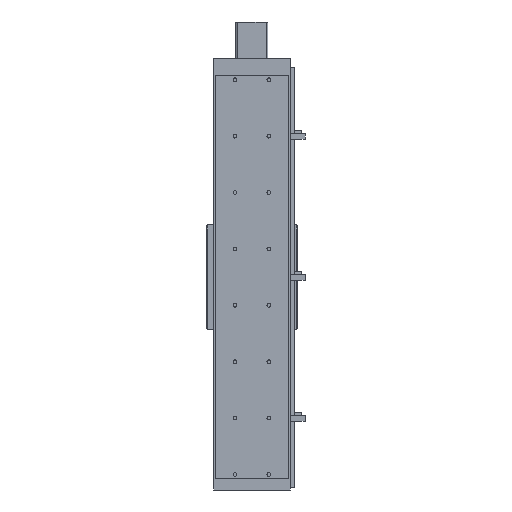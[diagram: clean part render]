
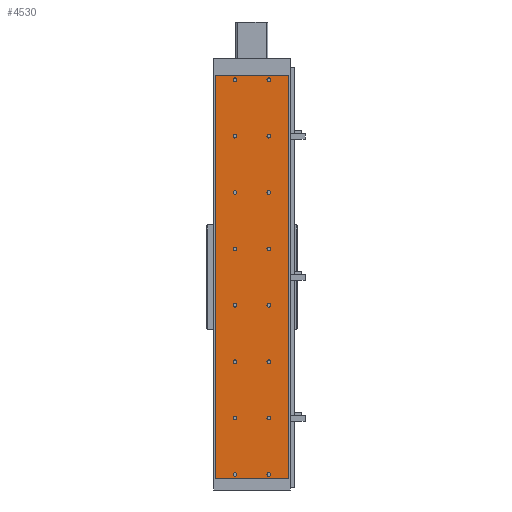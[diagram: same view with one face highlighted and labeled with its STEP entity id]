
A CAD part, front view. The second image highlights one B-rep face of the part: STEP entity #4530.
In plain terms, the highlighted planar face has unit normal (0, -1, 0).
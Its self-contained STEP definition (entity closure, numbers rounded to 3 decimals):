
#2214=CARTESIAN_POINT('',(26.75,0.0,107.5));
#2215=VERTEX_POINT('',#2214);
#2216=CARTESIAN_POINT('',(30.,0.0,107.5));
#2217=DIRECTION('',(0.0,1.0,0.0));
#2218=DIRECTION('',(1.0,0.0,0.0));
#2219=AXIS2_PLACEMENT_3D('',#2216,#2217,#2218);
#2220=CIRCLE('',#2219,3.25);
#2221=EDGE_CURVE('',#2215,#2215,#2220,.T.);
#2255=CARTESIAN_POINT('',(-33.25,0.0,107.5));
#2256=VERTEX_POINT('',#2255);
#2257=CARTESIAN_POINT('',(-30.,0.0,107.5));
#2258=DIRECTION('',(0.0,1.0,0.0));
#2259=DIRECTION('',(1.0,0.0,0.0));
#2260=AXIS2_PLACEMENT_3D('',#2257,#2258,#2259);
#2261=CIRCLE('',#2260,3.25);
#2262=EDGE_CURVE('',#2256,#2256,#2261,.T.);
#2365=CARTESIAN_POINT('',(-33.25,0.0,507.5));
#2366=VERTEX_POINT('',#2365);
#2367=CARTESIAN_POINT('',(-30.,0.0,507.5));
#2368=DIRECTION('',(0.0,1.0,0.0));
#2369=DIRECTION('',(1.0,0.0,0.0));
#2370=AXIS2_PLACEMENT_3D('',#2367,#2368,#2369);
#2371=CIRCLE('',#2370,3.25);
#2372=EDGE_CURVE('',#2366,#2366,#2371,.T.);
#2544=CARTESIAN_POINT('',(26.75,0.0,507.5));
#2545=VERTEX_POINT('',#2544);
#2546=CARTESIAN_POINT('',(30.,0.0,507.5));
#2547=DIRECTION('',(0.0,1.0,0.0));
#2548=DIRECTION('',(1.0,0.0,0.0));
#2549=AXIS2_PLACEMENT_3D('',#2546,#2547,#2548);
#2550=CIRCLE('',#2549,3.25);
#2551=EDGE_CURVE('',#2545,#2545,#2550,.T.);
#2585=CARTESIAN_POINT('',(-33.25,0.0,607.5));
#2586=VERTEX_POINT('',#2585);
#2587=CARTESIAN_POINT('',(-30.,0.0,607.5));
#2588=DIRECTION('',(0.0,1.0,0.0));
#2589=DIRECTION('',(1.0,0.0,0.0));
#2590=AXIS2_PLACEMENT_3D('',#2587,#2588,#2589);
#2591=CIRCLE('',#2590,3.25);
#2592=EDGE_CURVE('',#2586,#2586,#2591,.T.);
#2764=CARTESIAN_POINT('',(26.75,0.0,607.5));
#2765=VERTEX_POINT('',#2764);
#2766=CARTESIAN_POINT('',(30.,0.0,607.5));
#2767=DIRECTION('',(0.0,1.0,0.0));
#2768=DIRECTION('',(1.0,0.0,0.0));
#2769=AXIS2_PLACEMENT_3D('',#2766,#2767,#2768);
#2770=CIRCLE('',#2769,3.25);
#2771=EDGE_CURVE('',#2765,#2765,#2770,.T.);
#2805=CARTESIAN_POINT('',(-33.25,0.0,707.5));
#2806=VERTEX_POINT('',#2805);
#2807=CARTESIAN_POINT('',(-30.,0.0,707.5));
#2808=DIRECTION('',(0.0,1.0,0.0));
#2809=DIRECTION('',(1.0,0.0,0.0));
#2810=AXIS2_PLACEMENT_3D('',#2807,#2808,#2809);
#2811=CIRCLE('',#2810,3.25);
#2812=EDGE_CURVE('',#2806,#2806,#2811,.T.);
#2984=CARTESIAN_POINT('',(26.75,0.0,707.5));
#2985=VERTEX_POINT('',#2984);
#2986=CARTESIAN_POINT('',(30.,0.0,707.5));
#2987=DIRECTION('',(0.0,1.0,0.0));
#2988=DIRECTION('',(1.0,0.0,0.0));
#2989=AXIS2_PLACEMENT_3D('',#2986,#2987,#2988);
#2990=CIRCLE('',#2989,3.25);
#2991=EDGE_CURVE('',#2985,#2985,#2990,.T.);
#3025=CARTESIAN_POINT('',(-33.25,0.0,307.5));
#3026=VERTEX_POINT('',#3025);
#3027=CARTESIAN_POINT('',(-30.,0.0,307.5));
#3028=DIRECTION('',(0.0,1.0,0.0));
#3029=DIRECTION('',(1.0,0.0,0.0));
#3030=AXIS2_PLACEMENT_3D('',#3027,#3028,#3029);
#3031=CIRCLE('',#3030,3.25);
#3032=EDGE_CURVE('',#3026,#3026,#3031,.T.);
#3204=CARTESIAN_POINT('',(26.75,0.0,307.5));
#3205=VERTEX_POINT('',#3204);
#3206=CARTESIAN_POINT('',(30.,0.0,307.5));
#3207=DIRECTION('',(0.0,1.0,0.0));
#3208=DIRECTION('',(1.0,0.0,0.0));
#3209=AXIS2_PLACEMENT_3D('',#3206,#3207,#3208);
#3210=CIRCLE('',#3209,3.25);
#3211=EDGE_CURVE('',#3205,#3205,#3210,.T.);
#3245=CARTESIAN_POINT('',(-33.25,0.0,207.5));
#3246=VERTEX_POINT('',#3245);
#3247=CARTESIAN_POINT('',(-30.,0.0,207.5));
#3248=DIRECTION('',(0.0,1.0,0.0));
#3249=DIRECTION('',(1.0,0.0,0.0));
#3250=AXIS2_PLACEMENT_3D('',#3247,#3248,#3249);
#3251=CIRCLE('',#3250,3.25);
#3252=EDGE_CURVE('',#3246,#3246,#3251,.T.);
#3424=CARTESIAN_POINT('',(26.75,0.0,207.5));
#3425=VERTEX_POINT('',#3424);
#3426=CARTESIAN_POINT('',(30.,0.0,207.5));
#3427=DIRECTION('',(0.0,1.0,0.0));
#3428=DIRECTION('',(1.0,0.0,0.0));
#3429=AXIS2_PLACEMENT_3D('',#3426,#3427,#3428);
#3430=CIRCLE('',#3429,3.25);
#3431=EDGE_CURVE('',#3425,#3425,#3430,.T.);
#3465=CARTESIAN_POINT('',(-33.25,0.0,7.5));
#3466=VERTEX_POINT('',#3465);
#3467=CARTESIAN_POINT('',(-30.,0.0,7.5));
#3468=DIRECTION('',(0.0,1.0,0.0));
#3469=DIRECTION('',(1.0,0.0,0.0));
#3470=AXIS2_PLACEMENT_3D('',#3467,#3468,#3469);
#3471=CIRCLE('',#3470,3.25);
#3472=EDGE_CURVE('',#3466,#3466,#3471,.T.);
#3644=CARTESIAN_POINT('',(26.75,0.0,7.5));
#3645=VERTEX_POINT('',#3644);
#3646=CARTESIAN_POINT('',(30.,0.0,7.5));
#3647=DIRECTION('',(0.0,1.0,0.0));
#3648=DIRECTION('',(1.0,0.0,0.0));
#3649=AXIS2_PLACEMENT_3D('',#3646,#3647,#3648);
#3650=CIRCLE('',#3649,3.25);
#3651=EDGE_CURVE('',#3645,#3645,#3650,.T.);
#3754=CARTESIAN_POINT('',(26.75,0.0,407.5));
#3755=VERTEX_POINT('',#3754);
#3756=CARTESIAN_POINT('',(30.,0.0,407.5));
#3757=DIRECTION('',(0.0,1.0,0.0));
#3758=DIRECTION('',(1.0,0.0,0.0));
#3759=AXIS2_PLACEMENT_3D('',#3756,#3757,#3758);
#3760=CIRCLE('',#3759,3.25);
#3761=EDGE_CURVE('',#3755,#3755,#3760,.T.);
#3864=CARTESIAN_POINT('',(-33.25,0.0,407.5));
#3865=VERTEX_POINT('',#3864);
#3866=CARTESIAN_POINT('',(-30.,0.0,407.5));
#3867=DIRECTION('',(0.0,1.0,0.0));
#3868=DIRECTION('',(1.0,0.0,0.0));
#3869=AXIS2_PLACEMENT_3D('',#3866,#3867,#3868);
#3870=CIRCLE('',#3869,3.25);
#3871=EDGE_CURVE('',#3865,#3865,#3870,.T.);
#4198=CARTESIAN_POINT('',(65.0,0.0,0.0));
#4199=VERTEX_POINT('',#4198);
#4206=CARTESIAN_POINT('',(-65.0,0.0,0.0));
#4207=VERTEX_POINT('',#4206);
#4208=CARTESIAN_POINT('',(-65.0,0.0,0.0));
#4209=DIRECTION('',(1.0,0.0,0.0));
#4210=VECTOR('',#4209,130.0);
#4211=LINE('',#4208,#4210);
#4212=EDGE_CURVE('',#4207,#4199,#4211,.T.);
#4402=CARTESIAN_POINT('',(-65.0,0.0,715.0));
#4403=VERTEX_POINT('',#4402);
#4410=CARTESIAN_POINT('',(65.0,0.0,715.0));
#4411=VERTEX_POINT('',#4410);
#4412=CARTESIAN_POINT('',(65.0,0.0,715.0));
#4413=DIRECTION('',(-1.0,0.0,0.0));
#4414=VECTOR('',#4413,130.0);
#4415=LINE('',#4412,#4414);
#4416=EDGE_CURVE('',#4411,#4403,#4415,.T.);
#4439=CARTESIAN_POINT('',(-65.0,0.0,0.0));
#4440=DIRECTION('',(0.0,0.0,1.0));
#4441=VECTOR('',#4440,715.0);
#4442=LINE('',#4439,#4441);
#4443=EDGE_CURVE('',#4207,#4403,#4442,.T.);
#4461=CARTESIAN_POINT('',(65.0,0.0,0.0));
#4462=DIRECTION('',(0.0,0.0,1.0));
#4463=VECTOR('',#4462,715.0);
#4464=LINE('',#4461,#4463);
#4465=EDGE_CURVE('',#4199,#4411,#4464,.T.);
#4471=CARTESIAN_POINT('',(65.0,0.0,0.0));
#4472=DIRECTION('',(0.0,-1.0,0.0));
#4473=DIRECTION('',(0.0,0.0,-1.0));
#4474=AXIS2_PLACEMENT_3D('',#4471,#4472,#4473);
#4475=PLANE('',#4474);
#4476=ORIENTED_EDGE('',*,*,#4416,.T.);
#4477=ORIENTED_EDGE('',*,*,#4443,.F.);
#4478=ORIENTED_EDGE('',*,*,#4212,.T.);
#4479=ORIENTED_EDGE('',*,*,#4465,.T.);
#4480=EDGE_LOOP('',(#4476,#4477,#4478,#4479));
#4481=FACE_OUTER_BOUND('',#4480,.T.);
#4482=ORIENTED_EDGE('',*,*,#2221,.T.);
#4483=EDGE_LOOP('',(#4482));
#4484=FACE_BOUND('',#4483,.T.);
#4485=ORIENTED_EDGE('',*,*,#2262,.T.);
#4486=EDGE_LOOP('',(#4485));
#4487=FACE_BOUND('',#4486,.T.);
#4488=ORIENTED_EDGE('',*,*,#2372,.T.);
#4489=EDGE_LOOP('',(#4488));
#4490=FACE_BOUND('',#4489,.T.);
#4491=ORIENTED_EDGE('',*,*,#2551,.T.);
#4492=EDGE_LOOP('',(#4491));
#4493=FACE_BOUND('',#4492,.T.);
#4494=ORIENTED_EDGE('',*,*,#2592,.T.);
#4495=EDGE_LOOP('',(#4494));
#4496=FACE_BOUND('',#4495,.T.);
#4497=ORIENTED_EDGE('',*,*,#2771,.T.);
#4498=EDGE_LOOP('',(#4497));
#4499=FACE_BOUND('',#4498,.T.);
#4500=ORIENTED_EDGE('',*,*,#2812,.T.);
#4501=EDGE_LOOP('',(#4500));
#4502=FACE_BOUND('',#4501,.T.);
#4503=ORIENTED_EDGE('',*,*,#2991,.T.);
#4504=EDGE_LOOP('',(#4503));
#4505=FACE_BOUND('',#4504,.T.);
#4506=ORIENTED_EDGE('',*,*,#3032,.T.);
#4507=EDGE_LOOP('',(#4506));
#4508=FACE_BOUND('',#4507,.T.);
#4509=ORIENTED_EDGE('',*,*,#3211,.T.);
#4510=EDGE_LOOP('',(#4509));
#4511=FACE_BOUND('',#4510,.T.);
#4512=ORIENTED_EDGE('',*,*,#3252,.T.);
#4513=EDGE_LOOP('',(#4512));
#4514=FACE_BOUND('',#4513,.T.);
#4515=ORIENTED_EDGE('',*,*,#3431,.T.);
#4516=EDGE_LOOP('',(#4515));
#4517=FACE_BOUND('',#4516,.T.);
#4518=ORIENTED_EDGE('',*,*,#3472,.T.);
#4519=EDGE_LOOP('',(#4518));
#4520=FACE_BOUND('',#4519,.T.);
#4521=ORIENTED_EDGE('',*,*,#3651,.T.);
#4522=EDGE_LOOP('',(#4521));
#4523=FACE_BOUND('',#4522,.T.);
#4524=ORIENTED_EDGE('',*,*,#3761,.T.);
#4525=EDGE_LOOP('',(#4524));
#4526=FACE_BOUND('',#4525,.T.);
#4527=ORIENTED_EDGE('',*,*,#3871,.T.);
#4528=EDGE_LOOP('',(#4527));
#4529=FACE_BOUND('',#4528,.T.);
#4530=ADVANCED_FACE('',(#4481,#4484,#4487,#4490,#4493,#4496,#4499,#4502,#4505,#4508,#4511,#4514,#4517,#4520,#4523,#4526,#4529),#4475,.T.);
